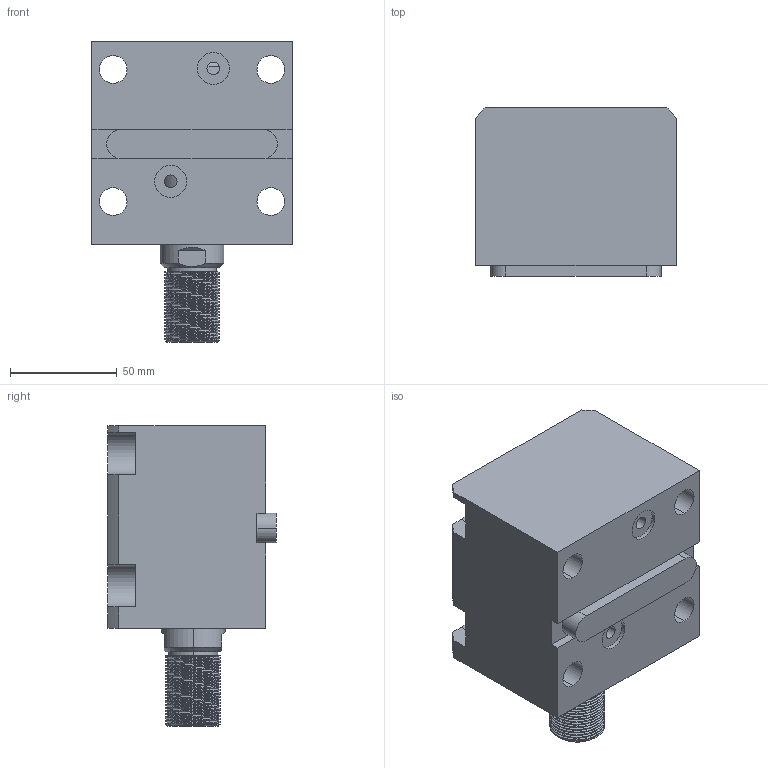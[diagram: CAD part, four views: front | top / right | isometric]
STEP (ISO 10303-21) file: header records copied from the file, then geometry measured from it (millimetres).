
FILE_DESCRIPTION (( 'STEP AP203' ), '1' );
FILE_NAME ('CHTB-LAM50-35W.STEP', '2018-05-23T10:19:24', ( '' ), ( '' ), 'SwSTEP 2.0', 'SolidWorks 2015', '' );
FILE_SCHEMA (( 'CONFIG_CONTROL_DESIGN' ));
Length unit declared in the file: millimetre
Products named in the file (4): CHTB-LAM50-35W; 活塞杆LAM50-35W; CHTM-SDMA50QG; 掛极LAM50-35W
Assembly tree (3 placements, depth 2):
  CHTB-LAM50-35W
    掛极LAM50-35W
    活塞杆LAM50-35W
    CHTM-SDMA50QG
Bounding box: 94 x 79 x 141 mm (x, y, z)
Volume: 588574.5 mm3; surface area: 106690.8 mm2
Topology: 3 solids, 3 shells, 234 faces, 652 edges, 436 vertices
Faces by surface type: cylinder 136, plane 53, bspline 16, torus 16, cone 13
Entity records: 14802 total; most frequent: CARTESIAN_POINT 8867, ORIENTED_EDGE 1296, DIRECTION 1023, EDGE_CURVE 648, VERTEX_POINT 436, AXIS2_PLACEMENT_3D 395, EDGE_LOOP 264, ADVANCED_FACE 234
